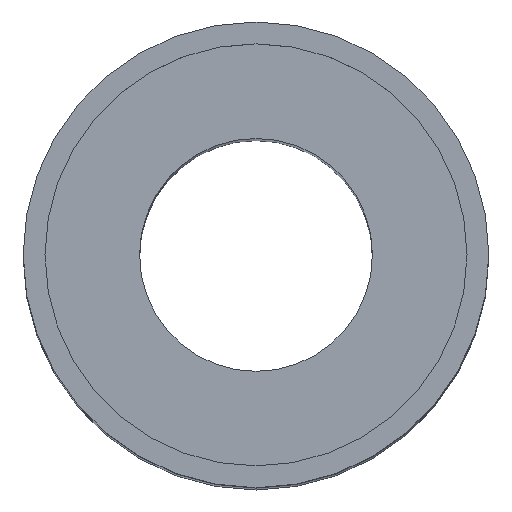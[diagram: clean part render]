
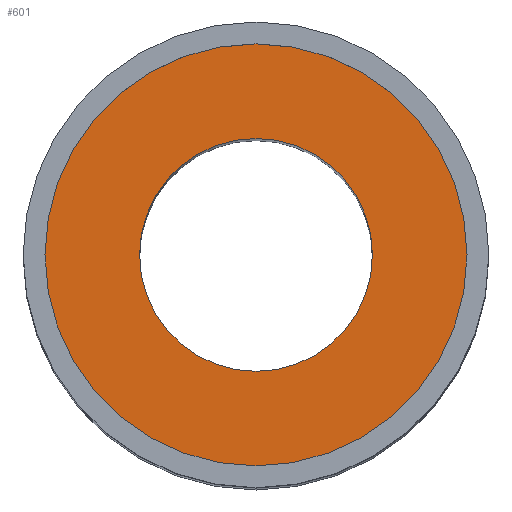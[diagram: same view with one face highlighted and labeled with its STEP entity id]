
A CAD part, top view. The second image highlights one B-rep face of the part: STEP entity #601.
In plain terms, the highlighted planar face has unit normal (0, 0, 1).
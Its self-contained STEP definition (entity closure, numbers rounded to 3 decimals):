
#135=CARTESIAN_POINT('',(-7.25,0.,44.0));
#136=VERTEX_POINT('',#135);
#152=CARTESIAN_POINT('',(7.25,0.,44.0));
#153=VERTEX_POINT('',#152);
#160=CARTESIAN_POINT('',(0.0,0.0,44.0));
#161=DIRECTION('',(0.0,0.0,-1.0));
#162=DIRECTION('',(-1.0,0.0,0.0));
#163=AXIS2_PLACEMENT_3D('',#160,#161,#162);
#164=CIRCLE('',#163,7.25);
#165=EDGE_CURVE('',#153,#136,#164,.T.);
#175=CARTESIAN_POINT('',(-4.,0.,44.0));
#176=VERTEX_POINT('',#175);
#185=CARTESIAN_POINT('',(4.,0.,44.0));
#186=VERTEX_POINT('',#185);
#187=CARTESIAN_POINT('',(0.0,0.0,44.0));
#188=DIRECTION('',(0.0,0.0,-1.0));
#189=DIRECTION('',(-1.0,0.0,0.0));
#190=AXIS2_PLACEMENT_3D('',#187,#188,#189);
#191=CIRCLE('',#190,4.);
#192=EDGE_CURVE('',#186,#176,#191,.T.);
#552=CARTESIAN_POINT('',(0.0,0.0,44.0));
#553=DIRECTION('',(0.0,0.0,-1.0));
#554=DIRECTION('',(-1.0,0.0,0.0));
#555=AXIS2_PLACEMENT_3D('',#552,#553,#554);
#556=CIRCLE('',#555,4.);
#557=EDGE_CURVE('',#176,#186,#556,.T.);
#582=CARTESIAN_POINT('',(0.0,0.0,44.0));
#583=DIRECTION('',(0.0,0.0,-1.0));
#584=DIRECTION('',(-1.0,0.0,0.0));
#585=AXIS2_PLACEMENT_3D('',#582,#583,#584);
#586=PLANE('',#585);
#587=ORIENTED_EDGE('',*,*,#165,.F.);
#588=CARTESIAN_POINT('',(0.0,0.0,44.0));
#589=DIRECTION('',(0.0,0.0,-1.0));
#590=DIRECTION('',(-1.0,0.0,0.0));
#591=AXIS2_PLACEMENT_3D('',#588,#589,#590);
#592=CIRCLE('',#591,7.25);
#593=EDGE_CURVE('',#136,#153,#592,.T.);
#594=ORIENTED_EDGE('',*,*,#593,.F.);
#595=EDGE_LOOP('',(#587,#594));
#596=FACE_OUTER_BOUND('',#595,.T.);
#597=ORIENTED_EDGE('',*,*,#192,.T.);
#598=ORIENTED_EDGE('',*,*,#557,.T.);
#599=EDGE_LOOP('',(#597,#598));
#600=FACE_BOUND('',#599,.T.);
#601=ADVANCED_FACE('',(#596,#600),#586,.F.);
